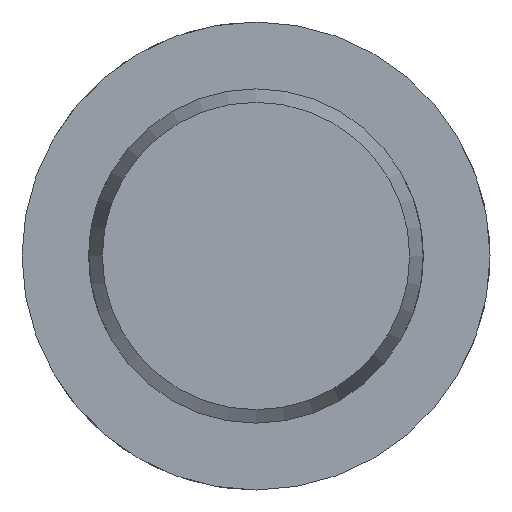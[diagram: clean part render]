
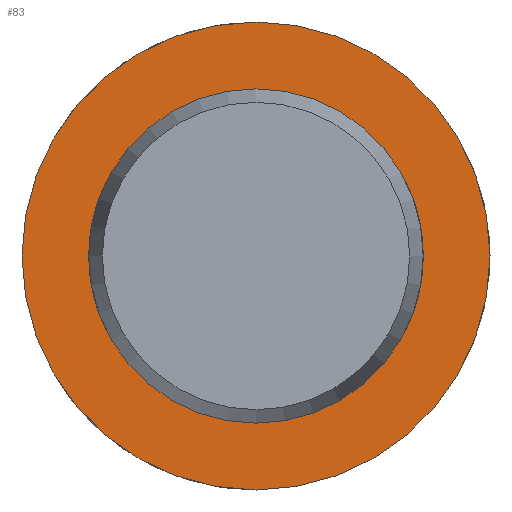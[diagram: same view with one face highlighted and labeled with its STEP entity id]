
A CAD part, left-side view. The second image highlights one B-rep face of the part: STEP entity #83.
In plain terms, the highlighted planar face has unit normal (-1, 0, 0).
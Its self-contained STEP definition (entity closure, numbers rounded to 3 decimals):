
#83 = ADVANCED_FACE( '', ( #128, #129 ), #130, .F. );
#128 = FACE_OUTER_BOUND( '', #204, .T. );
#129 = FACE_BOUND( '', #205, .T. );
#130 = PLANE( '', #206 );
#204 = EDGE_LOOP( '', ( #318 ) );
#205 = EDGE_LOOP( '', ( #319 ) );
#206 = AXIS2_PLACEMENT_3D( '', #320, #321, #322 );
#318 = ORIENTED_EDGE( '', *, *, #481, .F. );
#319 = ORIENTED_EDGE( '', *, *, #471, .T. );
#320 = CARTESIAN_POINT( '', ( 79.6, 5., 0. ) );
#321 = DIRECTION( '', ( 1., 0., 0. ) );
#322 = DIRECTION( '', ( 0., 0., -1. ) );
#471 = EDGE_CURVE( '', #541, #541, #542, .T. );
#481 = EDGE_CURVE( '', #559, #559, #560, .T. );
#541 = VERTEX_POINT( '', #726 );
#542 = CIRCLE( '', #727, 5. );
#559 = VERTEX_POINT( '', #881 );
#560 = CIRCLE( '', #882, 7. );
#726 = CARTESIAN_POINT( '', ( 79.6, 0., -5. ) );
#727 = AXIS2_PLACEMENT_3D( '', #943, #944, #945 );
#881 = CARTESIAN_POINT( '', ( 79.6, 0., -7. ) );
#882 = AXIS2_PLACEMENT_3D( '', #964, #965, #966 );
#943 = CARTESIAN_POINT( '', ( 79.6, 0., 0. ) );
#944 = DIRECTION( '', ( 1., 0., 0. ) );
#945 = DIRECTION( '', ( 0., 0., -1. ) );
#964 = CARTESIAN_POINT( '', ( 79.6, 0., 0. ) );
#965 = DIRECTION( '', ( 1., 0., 0. ) );
#966 = DIRECTION( '', ( 0., 0., -1. ) );
